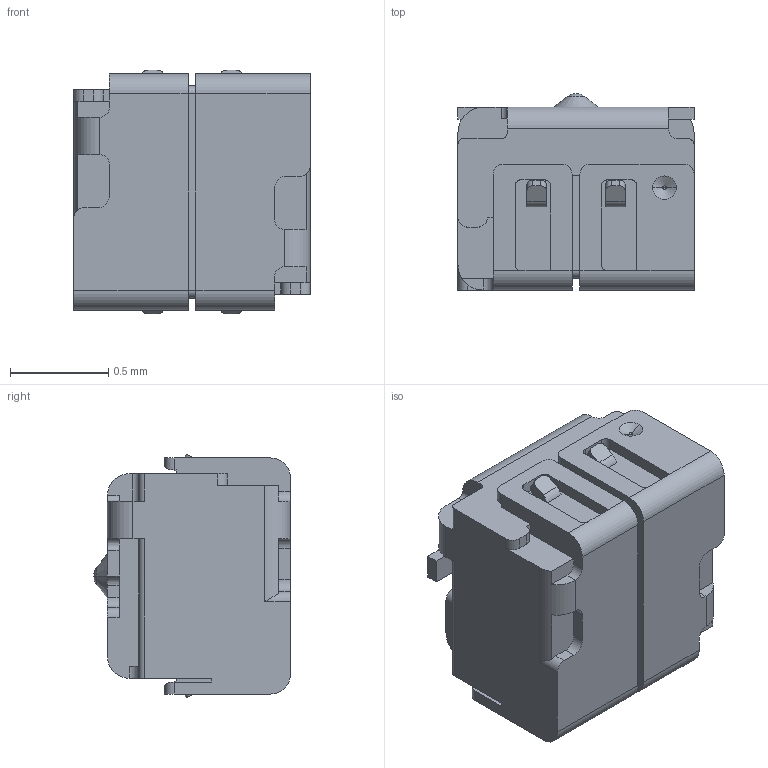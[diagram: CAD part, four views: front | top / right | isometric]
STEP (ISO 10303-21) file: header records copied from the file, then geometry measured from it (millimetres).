
FILE_DESCRIPTION((''),'2;1');
FILE_NAME('3D-2014019-0A-00','2022-04-25T',('TPS'),(''),'CREO PARAMETRIC BY PTC INC, 2015290','CREO PARAMETRIC BY PTC INC, 2015290','');
FILE_SCHEMA(('CONFIG_CONTROL_DESIGN'));
Length unit declared in the file: millimetre
Products named in the file (1): 3D-2014019-0A-00
Bounding box: 1.2 x 1 x 1.24 mm (x, y, z)
Volume: 1.2 mm3; surface area: 8.1 mm2
Topology: 1 solids, 2 shells, 221 faces, 614 edges, 396 vertices
Faces by surface type: plane 129, cylinder 74, cone 10, sphere 8
Entity records: 7068 total; most frequent: CARTESIAN_POINT 1281, ORIENTED_EDGE 1212, DIRECTION 1210, EDGE_CURVE 606, VECTOR 412, LINE 412, AXIS2_PLACEMENT_3D 399, VERTEX_POINT 396
